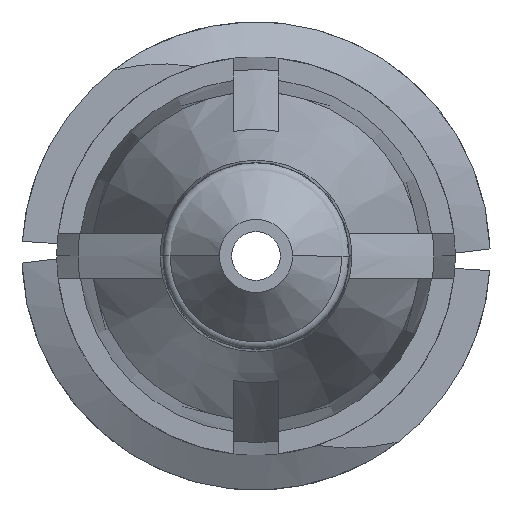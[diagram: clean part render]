
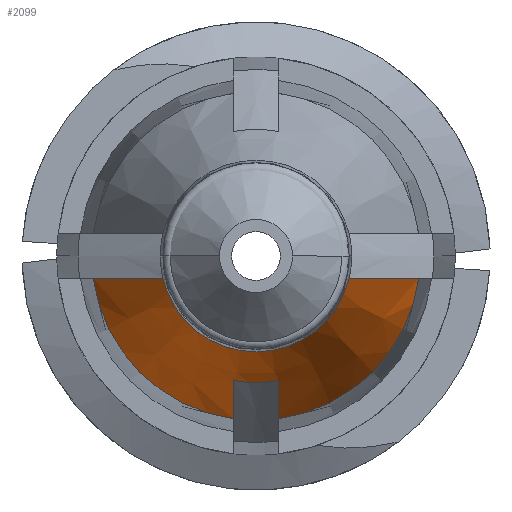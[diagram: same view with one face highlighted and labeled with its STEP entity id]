
A CAD part, front view. The second image highlights one B-rep face of the part: STEP entity #2099.
In plain terms, the highlighted conical face has half-angle 20 degrees and reference radius 2.745 mm.
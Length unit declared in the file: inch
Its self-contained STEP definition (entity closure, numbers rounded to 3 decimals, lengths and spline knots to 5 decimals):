
#26 = CARTESIAN_POINT ( 'NONE',  ( 0.09185, -0.44732, -0.015 ) ) ;
#116 = CARTESIAN_POINT ( 'NONE',  ( -0.09185, -0.44732, -0.015 ) ) ;
#136 = CARTESIAN_POINT ( 'NONE',  ( 0., -0.406, 0. ) ) ;
#158 = DIRECTION ( 'NONE',  ( 1., 0., 0. ) ) ;
#166 = AXIS2_PLACEMENT_3D ( 'NONE', #869, #3017, #158 ) ;
#189 = CIRCLE ( 'NONE', #211, 0.10808 ) ;
#211 = AXIS2_PLACEMENT_3D ( 'NONE', #136, #1379, #890 ) ;
#240 = CARTESIAN_POINT ( 'NONE',  ( 0., -0.406, 0. ) ) ;
#295 = EDGE_CURVE ( 'NONE', #1814, #1731, #873, .T. ) ;
#306 = CARTESIAN_POINT ( 'NONE',  ( 0.015, -0.47395, -0.08198 ) ) ;
#346 = EDGE_CURVE ( 'NONE', #2634, #2763, #682, .T. ) ;
#347 = CARTESIAN_POINT ( 'NONE',  ( 0.015, -0.45131, -0.09036 ) ) ;
#388 = DIRECTION ( 'NONE',  ( 1., 0., 0. ) ) ;
#402 = CARTESIAN_POINT ( 'NONE',  ( -0.015, -0.47395, -0.08198 ) ) ;
#451 = CARTESIAN_POINT ( 'NONE',  ( -0.015, -0.406, -0.10703 ) ) ;
#563 = CARTESIAN_POINT ( 'NONE',  ( 0.015, -0.42866, -0.0987 ) ) ;
#614 = DIRECTION ( 'NONE',  ( -1., 0., 0. ) ) ;
#682 = CIRCLE ( 'NONE', #2718, 0.10808 ) ;
#694 = ORIENTED_EDGE ( 'NONE', *, *, #965, .F. ) ;
#706 = B_SPLINE_CURVE_WITH_KNOTS ( 'NONE', 3,
 ( #1466, #2395, #26, #813 ),
 .UNSPECIFIED., .F., .F.,
 ( 4, 4 ),
 ( 0.00282, 0.00617 ),
 .UNSPECIFIED. ) ;
#741 = DIRECTION ( 'NONE',  ( 0., 1., 0. ) ) ;
#763 = EDGE_CURVE ( 'NONE', #1731, #990, #1155, .T. ) ;
#800 = CARTESIAN_POINT ( 'NONE',  ( -0.07664, -0.48863, -0.015 ) ) ;
#813 = CARTESIAN_POINT ( 'NONE',  ( 0.10703, -0.406, -0.015 ) ) ;
#838 = ORIENTED_EDGE ( 'NONE', *, *, #763, .F. ) ;
#869 = CARTESIAN_POINT ( 'NONE',  ( 0., -0.52985, 0. ) ) ;
#873 = CIRCLE ( 'NONE', #1625, 0.08335 ) ;
#890 = DIRECTION ( 'NONE',  ( 1., 0., 0. ) ) ;
#965 = EDGE_CURVE ( 'NONE', #2979, #2634, #706, .T. ) ;
#970 = CARTESIAN_POINT ( 'NONE',  ( 0.10703, -0.406, -0.015 ) ) ;
#990 = VERTEX_POINT ( 'NONE', #451 ) ;
#1050 = ORIENTED_EDGE ( 'NONE', *, *, #346, .F. ) ;
#1059 = VERTEX_POINT ( 'NONE', #1392 ) ;
#1090 = ORIENTED_EDGE ( 'NONE', *, *, #1827, .T. ) ;
#1123 = ORIENTED_EDGE ( 'NONE', *, *, #1847, .F. ) ;
#1138 = FACE_OUTER_BOUND ( 'NONE', #1705, .T. ) ;
#1155 = B_SPLINE_CURVE_WITH_KNOTS ( 'NONE', 3,
 ( #1571, #3019, #2016, #2272 ),
 .UNSPECIFIED., .F., .F.,
 ( 4, 4 ),
 ( 0.00247, 0.00431 ),
 .UNSPECIFIED. ) ;
#1183 = ORIENTED_EDGE ( 'NONE', *, *, #295, .F. ) ;
#1216 = B_SPLINE_CURVE_WITH_KNOTS ( 'NONE', 3,
 ( #1303, #563, #347, #306 ),
 .UNSPECIFIED., .F., .F.,
 ( 4, 4 ),
 ( 0.00343, 0.00527 ),
 .UNSPECIFIED. ) ;
#1303 = CARTESIAN_POINT ( 'NONE',  ( 0.015, -0.406, -0.10703 ) ) ;
#1309 = CARTESIAN_POINT ( 'NONE',  ( 0.015, -0.406, -0.10703 ) ) ;
#1379 = DIRECTION ( 'NONE',  ( 0., 1., 0. ) ) ;
#1392 = CARTESIAN_POINT ( 'NONE',  ( -0.10703, -0.406, -0.015 ) ) ;
#1396 = AXIS2_PLACEMENT_3D ( 'NONE', #240, #741, #2876 ) ;
#1460 = EDGE_CURVE ( 'NONE', #1651, #1059, #2577, .T. ) ;
#1466 = CARTESIAN_POINT ( 'NONE',  ( 0.06119, -0.52985, -0.015 ) ) ;
#1571 = CARTESIAN_POINT ( 'NONE',  ( -0.015, -0.47395, -0.08198 ) ) ;
#1596 = DIRECTION ( 'NONE',  ( 0., 1., 0. ) ) ;
#1625 = AXIS2_PLACEMENT_3D ( 'NONE', #2506, #2285, #614 ) ;
#1651 = VERTEX_POINT ( 'NONE', #2216 ) ;
#1705 = EDGE_LOOP ( 'NONE', ( #694, #1090, #2491, #1123, #838, #1183, #2103, #1050 ) ) ;
#1713 = CARTESIAN_POINT ( 'NONE',  ( -0.06119, -0.52985, -0.015 ) ) ;
#1731 = VERTEX_POINT ( 'NONE', #402 ) ;
#1772 = CARTESIAN_POINT ( 'NONE',  ( 0.06119, -0.52985, -0.015 ) ) ;
#1814 = VERTEX_POINT ( 'NONE', #2090 ) ;
#1827 = EDGE_CURVE ( 'NONE', #2979, #1651, #2284, .T. ) ;
#1847 = EDGE_CURVE ( 'NONE', #990, #1059, #189, .T. ) ;
#2016 = CARTESIAN_POINT ( 'NONE',  ( -0.015, -0.42866, -0.0987 ) ) ;
#2038 = CARTESIAN_POINT ( 'NONE',  ( 0., -0.406, 0. ) ) ;
#2090 = CARTESIAN_POINT ( 'NONE',  ( 0.015, -0.47395, -0.08198 ) ) ;
#2099 = ADVANCED_FACE ( 'NONE', ( #1138 ), #2675, .T. ) ;
#2103 = ORIENTED_EDGE ( 'NONE', *, *, #2896, .F. ) ;
#2216 = CARTESIAN_POINT ( 'NONE',  ( -0.06119, -0.52985, -0.015 ) ) ;
#2272 = CARTESIAN_POINT ( 'NONE',  ( -0.015, -0.406, -0.10703 ) ) ;
#2284 = CIRCLE ( 'NONE', #166, 0.063 ) ;
#2285 = DIRECTION ( 'NONE',  ( 0., 1., 0. ) ) ;
#2395 = CARTESIAN_POINT ( 'NONE',  ( 0.07664, -0.48863, -0.015 ) ) ;
#2491 = ORIENTED_EDGE ( 'NONE', *, *, #1460, .T. ) ;
#2506 = CARTESIAN_POINT ( 'NONE',  ( 0., -0.47395, 0. ) ) ;
#2517 = CARTESIAN_POINT ( 'NONE',  ( -0.10703, -0.406, -0.015 ) ) ;
#2577 = B_SPLINE_CURVE_WITH_KNOTS ( 'NONE', 3,
 ( #1713, #800, #116, #2517 ),
 .UNSPECIFIED., .F., .F.,
 ( 4, 4 ),
 ( 0.00282, 0.00617 ),
 .UNSPECIFIED. ) ;
#2634 = VERTEX_POINT ( 'NONE', #970 ) ;
#2675 = CONICAL_SURFACE ( 'NONE', #1396, 0.10808, 0.349 ) ;
#2718 = AXIS2_PLACEMENT_3D ( 'NONE', #2038, #1596, #388 ) ;
#2763 = VERTEX_POINT ( 'NONE', #1309 ) ;
#2876 = DIRECTION ( 'NONE',  ( 1., 0., 0. ) ) ;
#2896 = EDGE_CURVE ( 'NONE', #2763, #1814, #1216, .T. ) ;
#2979 = VERTEX_POINT ( 'NONE', #1772 ) ;
#3017 = DIRECTION ( 'NONE',  ( 0., 1., 0. ) ) ;
#3019 = CARTESIAN_POINT ( 'NONE',  ( -0.015, -0.45131, -0.09036 ) ) ;
